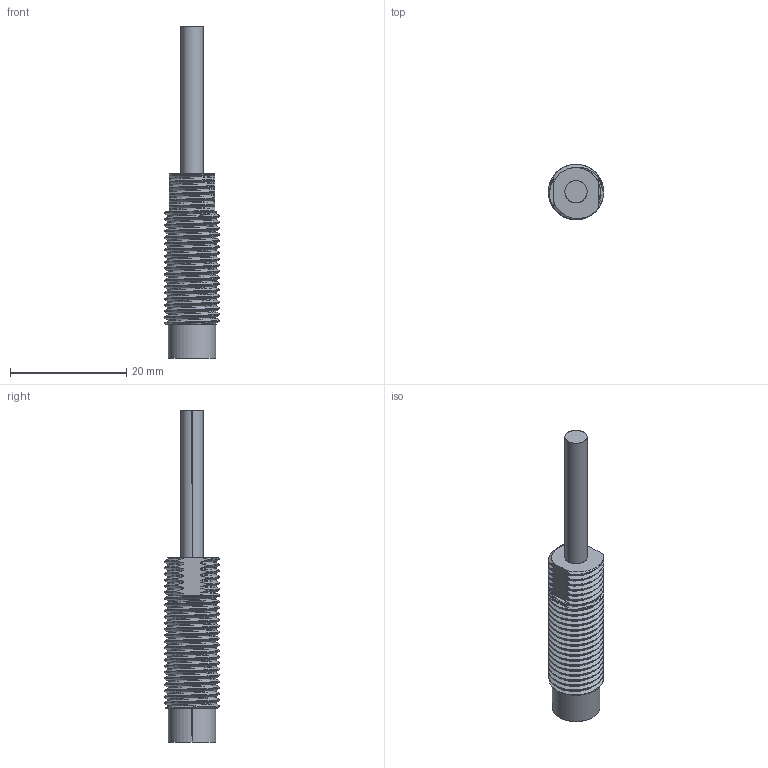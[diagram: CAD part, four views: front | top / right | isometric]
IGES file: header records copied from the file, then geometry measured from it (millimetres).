
Start section: SolidWorks IGES file using analytic representation for surfaces
Global section: file name: C:\Documents and Settings\Administrator\My Documents\EDI\3D\finished sensors\9C.IGS; native system: SolidWorks 2008; preprocessor: SolidWorks 2008; author: Administrator; date: 100304.194120; units: inch
Bounding box: 9.53 x 9.53 x 57.15 mm (x, y, z)
Surface area: 1715 mm2 (no closed solid volume)
Topology: 0 solids, 0 shells, 102 faces, 1578 edges, 1578 vertices
Faces by surface type: revolution 54, bspline 48
